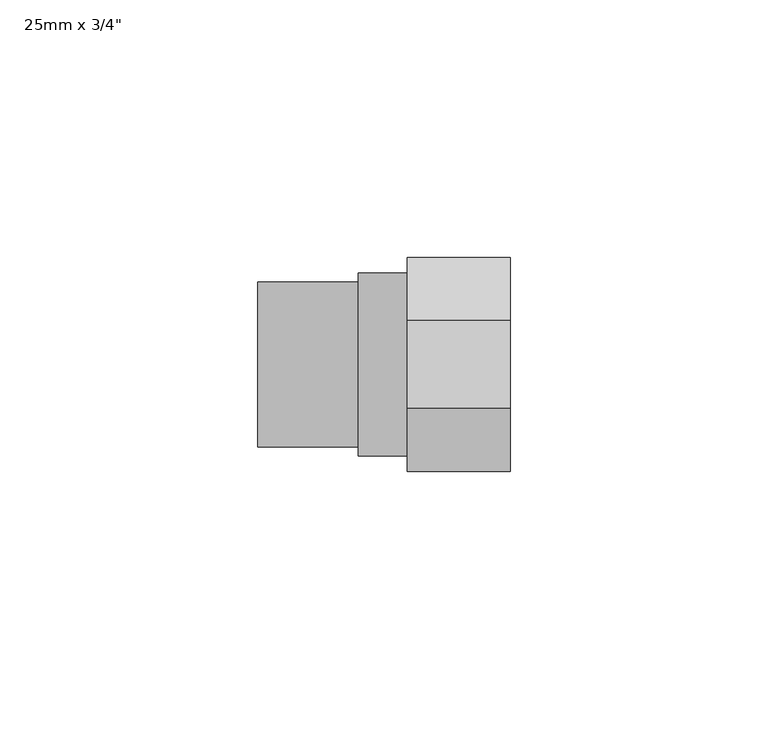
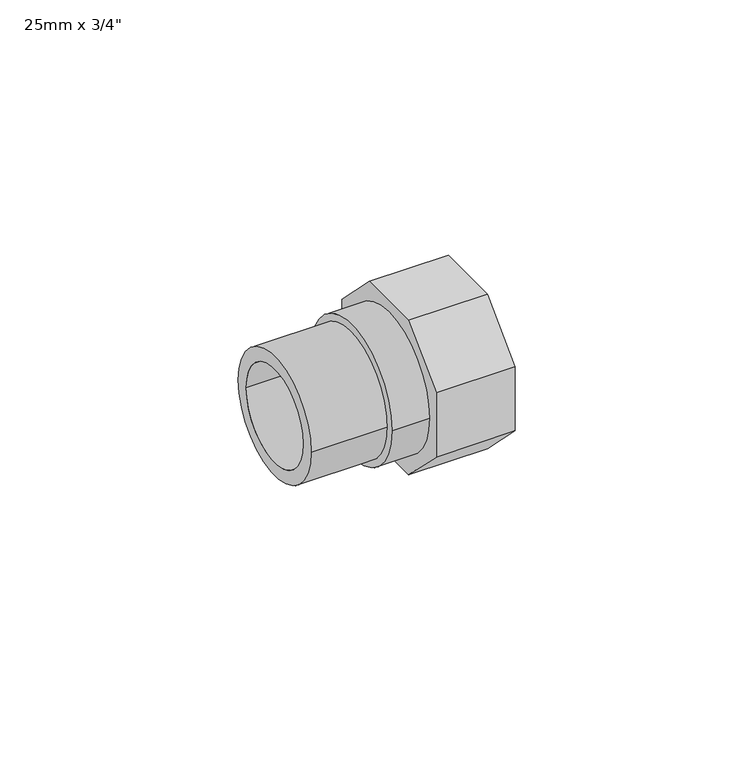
"""IFC4 building model written with IfcOpenShell, lengths in millimetres: pipe fitting geometry."""

import ifcopenshell
import ifcopenshell.guid

model = None  # the IFC model being written
_history = None  # IfcOwnerHistory: only IFC2X3 demands one
_inside = {}  # id of a spatial element -> (the spatial element, [elements in it])
_under = {}  # id of a project, library or spatial element -> (it, [spatial elements below it])
_declared = {}  # id of a project -> (the project, [libraries it declares])
_typed = {}  # id of a type object -> (the type object, [elements of that type])
_made_of = {}  # id of a material, layer set ... -> (it, [elements and type objects made of it])


def new_model(schema):
    """Start an empty IFC model of exactly this schema.

    Asked for "IFC4X3", IfcOpenShell would pick the latest addendum, in which some entities
    have other attributes; the version numbers below select the first issue.
    IFC2X3 requires an IfcOwnerHistory on every rooted entity: one is made here for all.
    """
    global model, _history
    if schema == "IFC4X3":
        model = ifcopenshell.file(schema_version=(4, 3, 0, 0))
    else:
        model = ifcopenshell.file(schema=schema)
    _inside.clear()
    _under.clear()
    _declared.clear()
    _typed.clear()
    _made_of.clear()
    _history = None
    if model.schema == "IFC2X3":
        org = make("IfcOrganization", Name="unknown")
        user = make(
            "IfcPersonAndOrganization",
            ThePerson=make("IfcPerson", FamilyName="unknown"),
            TheOrganization=org,
        )
        app = make(
            "IfcApplication",
            ApplicationDeveloper=org,
            Version="unknown",
            ApplicationFullName="unknown",
            ApplicationIdentifier="unknown",
        )
        _history = make(
            "IfcOwnerHistory",
            OwningUser=user,
            OwningApplication=app,
            ChangeAction="ADDED",
            CreationDate=0,
        )
    return model


def make(cls, **values):
    """One entity of the class cls with the attributes given. An attribute that is None is left unset."""
    return model.create_entity(
        cls, **{name: value for name, value in values.items() if value is not None}
    )


def rooted(cls, **values):
    """An entity with a GlobalId (a new one), such as an element, a storey or a relation."""
    return make(cls, GlobalId=ifcopenshell.guid.new(), OwnerHistory=_history, **values)


def si_unit(unit_type, name, prefix=None):
    """IfcSIUnit, for example si_unit("LENGTHUNIT", "METRE", prefix="MILLI")."""
    return make("IfcSIUnit", UnitType=unit_type, Prefix=prefix, Name=name)


def assignment(units):
    """IfcUnitAssignment: the units of a project."""
    return None if units is None else make("IfcUnitAssignment", Units=units)


def point(xyz):
    """IfcCartesianPoint."""
    return None if xyz is None else make("IfcCartesianPoint", Coordinates=xyz)


def direction(xyz):
    """IfcDirection."""
    return None if xyz is None else make("IfcDirection", DirectionRatios=xyz)


def frame(location, z_axis=None, x_axis=None):
    """IfcAxis2Placement3D, a coordinate frame: its origin and axes. An axis left out is left unset."""
    return make(
        "IfcAxis2Placement3D",
        Location=point(location),
        Axis=direction(z_axis),
        RefDirection=direction(x_axis),
    )


def frame_2d(location, x_axis=None):
    """IfcAxis2Placement2D, a coordinate frame in the plane: its origin and x axis."""
    return make(
        "IfcAxis2Placement2D", Location=point(location), RefDirection=direction(x_axis)
    )


def origin():
    """The frame at (0, 0, 0) with its axes left unset."""
    return frame((0.0, 0.0, 0.0))


def origin_2d():
    """The frame at (0, 0) in the plane with its x axis left unset."""
    return frame_2d((0.0, 0.0))


def place(relative_to, where):
    """IfcLocalPlacement: puts the frame where relative to a parent placement (None: the world)."""
    return make(
        "IfcLocalPlacement", PlacementRelTo=relative_to, RelativePlacement=where
    )


def context(
    kind, dimensions, precision=None, world=None, true_north=None, identifier=None
):
    """IfcGeometricRepresentationContext, for example the 3D "Model" context."""
    return make(
        "IfcGeometricRepresentationContext",
        ContextIdentifier=identifier,
        ContextType=kind,
        CoordinateSpaceDimension=dimensions,
        Precision=precision,
        WorldCoordinateSystem=world,
        TrueNorth=true_north,
    )


def project(units=None, contexts=None):
    """IfcProject with its units and contexts."""
    return rooted(
        "IfcProject",
        Name="project",
        RepresentationContexts=contexts,
        UnitsInContext=assignment(units),
    )


def spatial(cls, under=None, at=None, **own):
    """A site, building, storey or space (cls), placed at a placement, below another one or the project."""
    s = rooted(cls, ObjectPlacement=at, **own)
    if under is not None:
        _under.setdefault(under.id(), (under, []))[1].append(s)
    return s


def polyline(points):
    """IfcPolyline through the points."""
    return make("IfcPolyline", Points=[point(p) for p in points])


def circle_curve(where, radius):
    """IfcCircle in the frame where."""
    return make("IfcCircle", Position=where, Radius=radius)


def trimmed(basis, trim1, trim2, sense, master):
    """IfcTrimmedCurve: the piece of a basis curve between two trims."""
    return make(
        "IfcTrimmedCurve",
        BasisCurve=basis,
        Trim1=trim1,
        Trim2=trim2,
        SenseAgreement=sense,
        MasterRepresentation=master,
    )


def segment(curve, same_sense, transition):
    """IfcCompositeCurveSegment."""
    return make(
        "IfcCompositeCurveSegment",
        Transition=transition,
        SameSense=same_sense,
        ParentCurve=curve,
    )


def composite_curve(segments, self_intersect=None):
    """IfcCompositeCurve: segments joined end to end."""
    return make("IfcCompositeCurve", Segments=segments, SelfIntersect=self_intersect)


def outline(outer, holes=None, kind="AREA"):
    """IfcArbitraryClosedProfileDef: a profile drawn as a closed curve; with holes, ...WithVoids."""
    if holes is None:
        return make("IfcArbitraryClosedProfileDef", ProfileType=kind, OuterCurve=outer)
    return make(
        "IfcArbitraryProfileDefWithVoids",
        ProfileType=kind,
        OuterCurve=outer,
        InnerCurves=holes,
    )


def extrude(swept, where, along, depth):
    """IfcExtrudedAreaSolid: the profile swept, set in the frame where, extruded along a direction by depth."""
    return make(
        "IfcExtrudedAreaSolid",
        SweptArea=swept,
        Position=where,
        ExtrudedDirection=direction(along),
        Depth=depth,
    )


def shape(context_of_items, identifier, shape_type, items):
    """IfcShapeRepresentation: the items that make up one representation, for example the "Body"."""
    return make(
        "IfcShapeRepresentation",
        ContextOfItems=context_of_items,
        RepresentationIdentifier=identifier,
        RepresentationType=shape_type,
        Items=items,
    )


def source(mapping_origin, context_of_items, identifier, shape_type, items):
    """IfcRepresentationMap: a shape defined once, which mapped items show again and again."""
    return make(
        "IfcRepresentationMap",
        MappingOrigin=mapping_origin,
        MappedRepresentation=shape(context_of_items, identifier, shape_type, items),
    )


def transform(
    local_origin,
    x_axis=None,
    y_axis=None,
    z_axis=None,
    scale=None,
    scale2=None,
    scale3=None,
    uniform=True,
):
    """IfcCartesianTransformationOperator3D, or its non-uniform kind. x_axis, y_axis, z_axis: its Axis1, 2, 3."""
    if uniform:
        return make(
            "IfcCartesianTransformationOperator3D",
            Axis1=direction(x_axis),
            Axis2=direction(y_axis),
            LocalOrigin=point(local_origin),
            Scale=scale,
            Axis3=direction(z_axis),
        )
    return make(
        "IfcCartesianTransformationOperator3DnonUniform",
        Axis1=direction(x_axis),
        Axis2=direction(y_axis),
        LocalOrigin=point(local_origin),
        Scale=scale,
        Axis3=direction(z_axis),
        Scale2=scale2,
        Scale3=scale3,
    )


def mapped(mapping_source, mapping_target):
    """IfcMappedItem: shows the shape of a source again, moved by a transform."""
    return make(
        "IfcMappedItem", MappingSource=mapping_source, MappingTarget=mapping_target
    )


def made_of(thing, what):
    """Note that an element or type object is made of a material, layer set ...; save() writes the relation."""
    if what is not None:
        _made_of.setdefault(what.id(), (what, []))[1].append(thing)
    return thing


def element(
    cls,
    number,
    at=None,
    inside=None,
    cuts=None,
    type_object=None,
    material=None,
    context=None,
    identifier="Body",
    shape_type=None,
    held_by="IfcProductDefinitionShape",
    body=None,
    shapes=None,
    **own,
):
    """One element of the class cls, such as IfcWall. Its Tag is "e" and its number.

    at: its placement. inside: the storey or other place that contains it. cuts: it is an
    opening in that element (IfcRelVoidsElement). A single representation is given by context,
    identifier, shape_type and body (its items); several are given by shapes. held_by: the class
    of the entity that holds the representations. save() writes the other relations.
    """
    e = rooted(cls, Tag="e%d" % number, ObjectPlacement=at, **own)
    if body is not None:
        shapes = [shape(context, identifier, shape_type, body)]
    if shapes is not None:
        e.Representation = make(held_by, Representations=shapes)
    if inside is not None:
        _inside.setdefault(inside.id(), (inside, []))[1].append(e)
    if cuts is not None:
        rooted(
            "IfcRelVoidsElement", RelatingBuildingElement=cuts, RelatedOpeningElement=e
        )
    if type_object is not None:
        _typed.setdefault(type_object.id(), (type_object, []))[1].append(e)
    return made_of(e, material)


def aggregate(whole, parts):
    """IfcRelAggregates: a whole, such as a stair, and the parts it consists of."""
    return rooted("IfcRelAggregates", RelatingObject=whole, RelatedObjects=parts)


def save(model, path):
    """Write the relations noted so far, then the file.

    IfcRelAggregates (storeys below a building ...), IfcRelContainedInSpatialStructure (elements
    in a storey), IfcRelDefinesByType, IfcRelAssociatesMaterial and IfcRelDeclares: one each for
    every whole, place, type object, material and project.
    """
    for whole, parts in _under.values():
        aggregate(whole, parts)
    for where, things in _inside.values():
        rooted(
            "IfcRelContainedInSpatialStructure",
            RelatedElements=things,
            RelatingStructure=where,
        )
    for kind, things in _typed.values():
        rooted("IfcRelDefinesByType", RelatedObjects=things, RelatingType=kind)
    for what, things in _made_of.values():
        rooted("IfcRelAssociatesMaterial", RelatedObjects=things, RelatingMaterial=what)
    for by, libraries in _declared.values():
        rooted("IfcRelDeclares", RelatingContext=by, RelatedDefinitions=libraries)
    model.write(path)


def plane_surface(at):
    """IfcPlane: the flat surface through the origin of the frame at, square to its z axis."""
    return make("IfcPlane", Position=at)


def revolved_surface(curve, axis_point, axis_direction):
    """IfcSurfaceOfRevolution: the curve turned about the line through axis_point along axis_direction."""
    return make(
        "IfcSurfaceOfRevolution",
        SweptCurve=make("IfcArbitraryOpenProfileDef", ProfileType="CURVE", Curve=curve),
        AxisPosition=make("IfcAxis1Placement", Location=point(axis_point), Axis=direction(axis_direction)),
    )


def advanced_brep(points, edges, surfaces, faces):
    """IfcAdvancedBrep: a solid bounded by faces that lie on surfaces and meet in shared edges.

    An edge is (start, end): straight between two places in points (the first is 0);
    or (start, end, curve); or (start, end, curve, False) where it runs against its curve.
    A face is (place in surfaces, loops), or (place, loops, False) where it looks against
    its surface's normal. A loop lists edges by number (the first is 1), with a minus sign
    where the edge is run from its end to its start. The first loop is the outer one.
    """
    corners = [point(p) for p in points]
    vertices = [make("IfcVertexPoint", VertexGeometry=c) for c in corners]
    made = []
    for start, end, *more in edges:
        made.append(
            make(
                "IfcEdgeCurve",
                EdgeStart=vertices[start],
                EdgeEnd=vertices[end],
                EdgeGeometry=more[0] if more else make("IfcPolyline", Points=[corners[start], corners[end]]),
                SameSense=more[1] if len(more) > 1 else True,
            )
        )
    hull = []
    for where, loops, *sense in faces:
        bounds = []
        for j, loop in enumerate(loops):
            ring = [make("IfcOrientedEdge", EdgeElement=made[abs(k) - 1], Orientation=k > 0) for k in loop]
            bounds.append(
                make(
                    "IfcFaceOuterBound" if j == 0 else "IfcFaceBound",
                    Bound=make("IfcEdgeLoop", EdgeList=ring),
                    Orientation=True,
                )
            )
        hull.append(make("IfcAdvancedFace", Bounds=bounds, FaceSurface=surfaces[where], SameSense=sense[0] if sense else True))
    return make("IfcAdvancedBrep", Outer=make("IfcClosedShell", CfsFaces=hull))


def pipe_fitting_cf8f43cd(model_context):
    return source(origin(), model_context, "Body", "SolidModel", [
        extrude(outline(composite_curve([segment(trimmed(circle_curve(origin_2d(), 17.75), [point((-17.75, 0.0))], [point((17.75, 0.0))], False, "CARTESIAN"), True, "CONTINUOUS"), segment(trimmed(circle_curve(origin_2d(), 17.75), [point((17.75, 0.0))], [point((-17.75, 0.0))], False, "CARTESIAN"), True, "CONTINUOUS")], self_intersect=False), holes=[composite_curve([segment(trimmed(circle_curve(origin_2d(), 10.5), [point((-10.5, 0.0))], [point((10.5, 0.0))], True, "CARTESIAN"), True, "CONTINUOUS"), segment(trimmed(circle_curve(origin_2d(), 10.5), [point((10.5, 0.0))], [point((-10.5, 0.0))], True, "CARTESIAN"), True, "CONTINUOUS")], self_intersect=False)]), frame((9.75, 0.0, 0.0), z_axis=(1.0, 0.0, 0.0), x_axis=(0.0, 1.0, 0.0)), (0.0, 0.0, 1.0), 9.5),
        advanced_brep(
        [(19.25, 8.5949314, 20.75), (19.25, 20.75, 8.5949314), (19.25, 20.75, -8.5949314), (19.25, 8.5949314, -20.75), (19.25, -8.5949314, -20.75), (19.25, -20.75, -8.5949314), (19.25, -20.75, 8.5949314), (19.25, -8.5949314, 20.75), (19.25, -10.5, 0.0), (19.25, 10.5, 0.0), (39.25, 8.5949314, 20.75), (39.25, -8.5949314, 20.75), (39.25, -20.75, 8.5949314), (39.25, -20.75, -8.5949314), (39.25, -8.5949314, -20.75), (39.25, 8.5949314, -20.75), (39.25, 20.75, -8.5949314), (39.25, 20.75, 8.5949314), (39.25, 14.0, 0.0), (39.25, -14.0, 0.0), (39.05, 14.0, 0.0), (39.05, -14.0, 0.0), (39.05, 10.5, 0.0), (39.05, -10.5, 0.0)],
        [
            (0, 1),
            (1, 2),
            (2, 3),
            (3, 4),
            (4, 5),
            (5, 6),
            (6, 7),
            (7, 0),
            (8, 9, circle_curve(frame((19.25, 0.0, 0.0), z_axis=(1.0, 0.0, 0.0), x_axis=(0.0, -1.0, 0.0)), 10.5)),
            (9, 8, circle_curve(frame((19.25, 0.0, 0.0), z_axis=(1.0, 0.0, 0.0), x_axis=(0.0, -1.0, 0.0)), 10.5)),
            (10, 11),
            (11, 12),
            (12, 13),
            (13, 14),
            (14, 15),
            (15, 16),
            (16, 17),
            (17, 10),
            (18, 19, circle_curve(frame((39.25, 0.0, 0.0), z_axis=(-1.0, 0.0, 0.0), x_axis=(0.0, -1.0, 0.0)), 14.0)),
            (19, 18, circle_curve(frame((39.25, 0.0, 0.0), z_axis=(-1.0, 0.0, 0.0), x_axis=(0.0, -1.0, 0.0)), 14.0)),
            (0, 10),
            (17, 1),
            (16, 2),
            (15, 3),
            (14, 4),
            (13, 5),
            (12, 6),
            (11, 7),
            (20, 21, circle_curve(frame((39.05, 0.0, 0.0), z_axis=(1.0, 0.0, 0.0), x_axis=(0.0, -1.0, 0.0)), 14.0)),
            (21, 20, circle_curve(frame((39.05, 0.0, 0.0), z_axis=(1.0, 0.0, 0.0), x_axis=(0.0, -1.0, 0.0)), 14.0)),
            (22, 23, circle_curve(frame((39.05, 0.0, 0.0), z_axis=(-1.0, 0.0, 0.0), x_axis=(0.0, -1.0, 0.0)), 10.5)),
            (23, 22, circle_curve(frame((39.05, 0.0, 0.0), z_axis=(-1.0, 0.0, 0.0), x_axis=(0.0, -1.0, 0.0)), 10.5)),
            (21, 19),
            (18, 20),
            (22, 9),
            (8, 23),
        ],
        [
            plane_surface(frame((19.25, 0.0, 0.0), z_axis=(-1.0, 0.0, 0.0), x_axis=(0.0, 0.0, 1.0))),
            plane_surface(frame((39.25, 0.0, 0.0), z_axis=(1.0, 0.0, 0.0), x_axis=(0.0, 0.0, 1.0))),
            plane_surface(frame((19.25, 8.5949314, 20.75), z_axis=(0.0, 0.7071067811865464, 0.7071067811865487), x_axis=(1.0, 0.0, 0.0))),
            plane_surface(frame((19.25, 20.75, 8.5949314), z_axis=(0.0, 1.0, 0.0), x_axis=(1.0, 0.0, 0.0))),
            plane_surface(frame((19.25, 20.75, -8.5949314), z_axis=(0.0, 0.7071067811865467, -0.7071067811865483), x_axis=(1.0, 0.0, 0.0))),
            plane_surface(frame((19.25, 8.5949314, -20.75), z_axis=(0.0, 0.0, -1.0), x_axis=(1.0, 0.0, 0.0))),
            plane_surface(frame((19.25, -8.5949314, -20.75), z_axis=(0.0, -0.7071067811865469, -0.7071067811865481), x_axis=(1.0, 0.0, 0.0))),
            plane_surface(frame((19.25, -20.75, -8.5949314), z_axis=(0.0, -1.0, 0.0), x_axis=(1.0, 0.0, 0.0))),
            plane_surface(frame((19.25, -20.75, 8.5949314), z_axis=(0.0, -0.7071067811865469, 0.7071067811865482), x_axis=(1.0, 0.0, 0.0))),
            plane_surface(frame((19.25, -8.5949314, 20.75), z_axis=(0.0, 0.0, 1.0), x_axis=(1.0, 0.0, 0.0))),
            plane_surface(frame((39.05, -14.0, 0.0), z_axis=(1.0, 0.0, 0.0), x_axis=(0.0, 0.0, 1.0))),
            revolved_surface(polyline([(39.05, -14.0, 0.0), (39.25, -14.0, 0.0)]), (39.25, 0.0, 0.0), (-1.0, 0.0, 0.0)),
            revolved_surface(polyline([(19.25, -10.5, 0.0), (39.05, -10.5, 0.0)]), (39.25, 0.0, 0.0), (-1.0, 0.0, 0.0)),
        ],
        [
            (0, [[1, 2, 3, 4, 5, 6, 7, 8], [9, 10]]),
            (1, [[11, 12, 13, 14, 15, 16, 17, 18], [19, 20]]),
            (2, [[-1, 21, -18, 22]]),
            (3, [[-2, -22, -17, 23]]),
            (4, [[-3, -23, -16, 24]]),
            (5, [[-4, -24, -15, 25]]),
            (6, [[-5, -25, -14, 26]]),
            (7, [[-6, -26, -13, 27]]),
            (8, [[-7, -27, -12, 28]]),
            (9, [[-8, -28, -11, -21]]),
            (10, [[29, 30], [31, 32]]),
            (11, [[-30, 33, -19, 34]]),
            (11, [[-29, -34, -20, -33]]),
            (12, [[35, -9, 36, -31]]),
            (12, [[-35, -32, -36, -10]]),
        ],
    ),
        extrude(outline(composite_curve([segment(trimmed(circle_curve(origin_2d(), 16.0), [point((-16.0, 0.0))], [point((16.0, 0.0))], False, "CARTESIAN"), True, "CONTINUOUS"), segment(trimmed(circle_curve(origin_2d(), 16.0), [point((16.0, 0.0))], [point((-16.0, 0.0))], False, "CARTESIAN"), True, "CONTINUOUS")], self_intersect=False), holes=[composite_curve([segment(trimmed(circle_curve(origin_2d(), 12.5), [point((-12.5, 0.0))], [point((12.5, 0.0))], True, "CARTESIAN"), True, "CONTINUOUS"), segment(trimmed(circle_curve(origin_2d(), 12.5), [point((12.5, 0.0))], [point((-12.5, 0.0))], True, "CARTESIAN"), True, "CONTINUOUS")], self_intersect=False)]), frame((-9.75, 0.0, 0.0), z_axis=(1.0, 0.0, 0.0), x_axis=(0.0, 1.0, 0.0)), (0.0, 0.0, 1.0), 19.5),
    ])


if __name__ == "__main__":
    model = new_model("IFC4")
    model_context = context("Model", 3, world=origin())
    ifc_project = project(units=[si_unit("LENGTHUNIT", "METRE", prefix="MILLI")], contexts=[model_context])
    site = spatial("IfcSite", under=ifc_project)
    building = spatial("IfcBuilding", under=site)
    placement = place(None, origin())
    pipe_fitting_shape = pipe_fitting_cf8f43cd(model_context)
    element("IfcPipeFitting", 1, ObjectType="PipeFitting_HTA_CPVC_ThreadedAdaptors : 25mm x 3/4\"", at=placement, inside=building, context=model_context, shape_type="MappedRepresentation", body=[
        mapped(pipe_fitting_shape, transform((0.0, 0.0, 0.0), x_axis=(1.0, 0.0, 0.0), y_axis=(0.0, 1.0, 0.0), z_axis=(0.0, 0.0, 1.0))),
    ])
    save(model, "model.ifc")
